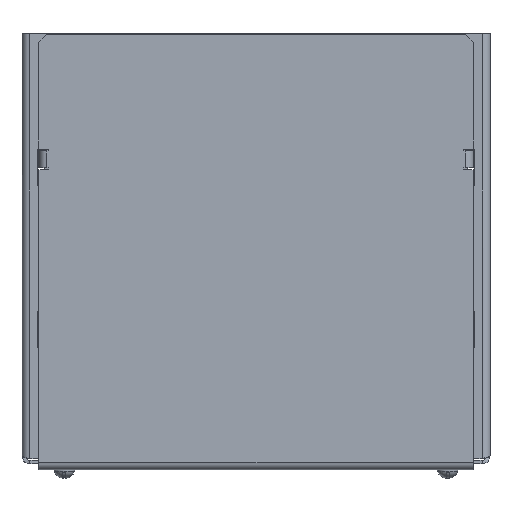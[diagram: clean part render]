
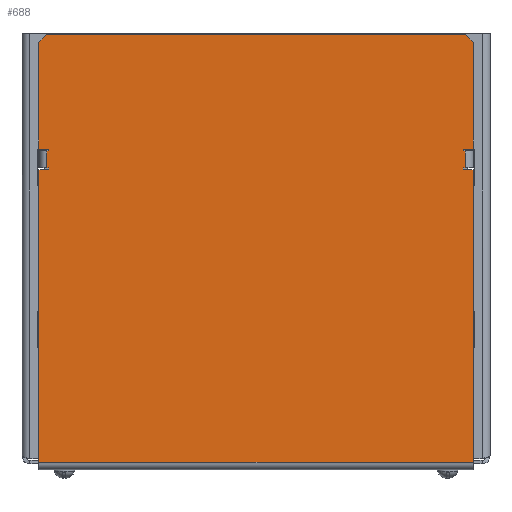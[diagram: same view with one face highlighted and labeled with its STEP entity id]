
A CAD part, left-side view. The second image highlights one B-rep face of the part: STEP entity #688.
In plain terms, the highlighted planar face has unit normal (-1, 0, 0).
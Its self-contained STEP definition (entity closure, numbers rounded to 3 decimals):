
#688=ADVANCED_FACE('',(#4765),#4767,.T.);
#4765=FACE_BOUND('',#4766,.T.);
#4766=EDGE_LOOP('',(#9113,#9114,#9115,#9116,#9117,#9118,#9119,#9120,#9121,#9122,
#9123,#9124,#9125,#9126,#9127,#9128,#9129,#9130,#9131,#9132,#9133,#9134));
#4767=PLANE('',#4768);
#4768=AXIS2_PLACEMENT_3D('',#4769,#4770,#4771);
#4769=CARTESIAN_POINT('',(-116.,0.,-91.5));
#4770=DIRECTION('',(-1.,0.,0.));
#4771=DIRECTION('',(0.,0.,1.));
#9113=ORIENTED_EDGE('',*,*,#11191,.T.);
#9114=ORIENTED_EDGE('',*,*,#11192,.T.);
#9115=ORIENTED_EDGE('',*,*,#11193,.T.);
#9116=ORIENTED_EDGE('',*,*,#11194,.T.);
#9117=ORIENTED_EDGE('',*,*,#11195,.T.);
#9118=ORIENTED_EDGE('',*,*,#11196,.T.);
#9119=ORIENTED_EDGE('',*,*,#11197,.T.);
#9120=ORIENTED_EDGE('',*,*,#11198,.T.);
#9121=ORIENTED_EDGE('',*,*,#11199,.T.);
#9122=ORIENTED_EDGE('',*,*,#11200,.T.);
#9123=ORIENTED_EDGE('',*,*,#11201,.T.);
#9124=ORIENTED_EDGE('',*,*,#11202,.T.);
#9125=ORIENTED_EDGE('',*,*,#11203,.T.);
#9126=ORIENTED_EDGE('',*,*,#11204,.T.);
#9127=ORIENTED_EDGE('',*,*,#11205,.T.);
#9128=ORIENTED_EDGE('',*,*,#11206,.T.);
#9129=ORIENTED_EDGE('',*,*,#11207,.T.);
#9130=ORIENTED_EDGE('',*,*,#11208,.T.);
#9131=ORIENTED_EDGE('',*,*,#11209,.T.);
#9132=ORIENTED_EDGE('',*,*,#11210,.T.);
#9133=ORIENTED_EDGE('',*,*,#11211,.T.);
#9134=ORIENTED_EDGE('',*,*,#11212,.T.);
#11191=EDGE_CURVE('',#13675,#13676,#13677,.T.);
#11192=EDGE_CURVE('',#13676,#13678,#13679,.T.);
#11193=EDGE_CURVE('',#13678,#13680,#13681,.T.);
#11194=EDGE_CURVE('',#13680,#13682,#13683,.T.);
#11195=EDGE_CURVE('',#13682,#13684,#13685,.T.);
#11196=EDGE_CURVE('',#13684,#13686,#13687,.T.);
#11197=EDGE_CURVE('',#13686,#13688,#13689,.T.);
#11198=EDGE_CURVE('',#13688,#13690,#13691,.T.);
#11199=EDGE_CURVE('',#13690,#13692,#13693,.T.);
#11200=EDGE_CURVE('',#13692,#13694,#13695,.T.);
#11201=EDGE_CURVE('',#13694,#13696,#13697,.T.);
#11202=EDGE_CURVE('',#13696,#13698,#13699,.T.);
#11203=EDGE_CURVE('',#13698,#13700,#13701,.T.);
#11204=EDGE_CURVE('',#13700,#13702,#13703,.T.);
#11205=EDGE_CURVE('',#13702,#13704,#13705,.T.);
#11206=EDGE_CURVE('',#13704,#13706,#13707,.T.);
#11207=EDGE_CURVE('',#13706,#13708,#13709,.T.);
#11208=EDGE_CURVE('',#13708,#13710,#13711,.T.);
#11209=EDGE_CURVE('',#13710,#13712,#13713,.T.);
#11210=EDGE_CURVE('',#13712,#13714,#13715,.T.);
#11211=EDGE_CURVE('',#13714,#13716,#13717,.T.);
#11212=EDGE_CURVE('',#13716,#13675,#13718,.T.);
#13675=VERTEX_POINT('',#20191);
#13676=VERTEX_POINT('',#20192);
#13677=LINE('',#20193,#20194);
#13678=VERTEX_POINT('',#20196);
#13679=LINE('',#20197,#20198);
#13680=VERTEX_POINT('',#20200);
#13681=LINE('',#20201,#20202);
#13682=VERTEX_POINT('',#20204);
#13683=LINE('',#20205,#20206);
#13684=VERTEX_POINT('',#20208);
#13685=LINE('',#20209,#20210);
#13686=VERTEX_POINT('',#20212);
#13687=LINE('',#20213,#20214);
#13688=VERTEX_POINT('',#20216);
#13689=LINE('',#20217,#20218);
#13690=VERTEX_POINT('',#20220);
#13691=LINE('',#20221,#20222);
#13692=VERTEX_POINT('',#20224);
#13693=LINE('',#20225,#20226);
#13694=VERTEX_POINT('',#20228);
#13695=LINE('',#20229,#20230);
#13696=VERTEX_POINT('',#20232);
#13697=LINE('',#20233,#20234);
#13698=VERTEX_POINT('',#20236);
#13699=LINE('',#20237,#20238);
#13700=VERTEX_POINT('',#20240);
#13701=LINE('',#20241,#20242);
#13702=VERTEX_POINT('',#20244);
#13703=LINE('',#20245,#20246);
#13704=VERTEX_POINT('',#20248);
#13705=LINE('',#20249,#20250);
#13706=VERTEX_POINT('',#20252);
#13707=LINE('',#20253,#20254);
#13708=VERTEX_POINT('',#20256);
#13709=LINE('',#20257,#20258);
#13710=VERTEX_POINT('',#20260);
#13711=LINE('',#20261,#20262);
#13712=VERTEX_POINT('',#20264);
#13713=LINE('',#20265,#20266);
#13714=VERTEX_POINT('',#20268);
#13715=LINE('',#20269,#20270);
#13716=VERTEX_POINT('',#20272);
#13717=LINE('',#20273,#20274);
#13718=LINE('',#20276,#20277);
#20191=CARTESIAN_POINT('',(-116.,-86.8,88.5));
#20192=CARTESIAN_POINT('',(-116.,86.8,88.5));
#20193=CARTESIAN_POINT('',(-116.,-86.8,88.5));
#20194=VECTOR('',#20195,1.);
#20195=DIRECTION('',(0.,1.,0.));
#20196=CARTESIAN_POINT('',(-116.,89.8,85.5));
#20197=CARTESIAN_POINT('',(-116.,86.8,88.5));
#20198=VECTOR('',#20199,1.);
#20199=DIRECTION('',(0.,0.707,-0.707));
#20200=CARTESIAN_POINT('',(-116.,89.8,41.25));
#20201=CARTESIAN_POINT('',(-116.,89.8,85.5));
#20202=VECTOR('',#20203,1.);
#20203=DIRECTION('',(0.,0.,-1.));
#20204=CARTESIAN_POINT('',(-116.,85.75,41.25));
#20205=CARTESIAN_POINT('',(-116.,89.8,41.25));
#20206=VECTOR('',#20207,1.);
#20207=DIRECTION('',(0.,-1.,0.));
#20208=CARTESIAN_POINT('',(-116.,85.75,40.5));
#20209=CARTESIAN_POINT('',(-116.,85.75,41.25));
#20210=VECTOR('',#20211,1.);
#20211=DIRECTION('',(0.,0.,-1.));
#20212=CARTESIAN_POINT('',(-116.,86.5,40.5));
#20213=CARTESIAN_POINT('',(-116.,85.75,40.5));
#20214=VECTOR('',#20215,1.);
#20215=DIRECTION('',(0.,1.,0.));
#20216=CARTESIAN_POINT('',(-116.,86.5,33.5));
#20217=CARTESIAN_POINT('',(-116.,86.5,40.5));
#20218=VECTOR('',#20219,1.);
#20219=DIRECTION('',(0.,0.,-1.));
#20220=CARTESIAN_POINT('',(-116.,85.75,33.5));
#20221=CARTESIAN_POINT('',(-116.,86.5,33.5));
#20222=VECTOR('',#20223,1.);
#20223=DIRECTION('',(0.,-1.,0.));
#20224=CARTESIAN_POINT('',(-116.,85.75,32.75));
#20225=CARTESIAN_POINT('',(-116.,85.75,33.5));
#20226=VECTOR('',#20227,1.);
#20227=DIRECTION('',(0.,0.,-1.));
#20228=CARTESIAN_POINT('',(-116.,89.8,32.75));
#20229=CARTESIAN_POINT('',(-116.,85.75,32.75));
#20230=VECTOR('',#20231,1.);
#20231=DIRECTION('',(0.,1.,0.));
#20232=CARTESIAN_POINT('',(-116.,89.8,-88.2));
#20233=CARTESIAN_POINT('',(-116.,89.8,32.75));
#20234=VECTOR('',#20235,1.);
#20235=DIRECTION('',(0.,0.,-1.));
#20236=CARTESIAN_POINT('',(-116.,-89.8,-88.2));
#20237=CARTESIAN_POINT('',(-116.,89.8,-88.2));
#20238=VECTOR('',#20239,1.);
#20239=DIRECTION('',(0.,-1.,0.));
#20240=CARTESIAN_POINT('',(-116.,-89.8,32.75));
#20241=CARTESIAN_POINT('',(-116.,-89.8,-88.2));
#20242=VECTOR('',#20243,1.);
#20243=DIRECTION('',(0.,0.,1.));
#20244=CARTESIAN_POINT('',(-116.,-85.75,32.75));
#20245=CARTESIAN_POINT('',(-116.,-89.8,32.75));
#20246=VECTOR('',#20247,1.);
#20247=DIRECTION('',(0.,1.,0.));
#20248=CARTESIAN_POINT('',(-116.,-85.75,33.5));
#20249=CARTESIAN_POINT('',(-116.,-85.75,32.75));
#20250=VECTOR('',#20251,1.);
#20251=DIRECTION('',(0.,0.,1.));
#20252=CARTESIAN_POINT('',(-116.,-86.5,33.5));
#20253=CARTESIAN_POINT('',(-116.,-85.75,33.5));
#20254=VECTOR('',#20255,1.);
#20255=DIRECTION('',(0.,-1.,0.));
#20256=CARTESIAN_POINT('',(-116.,-86.5,40.5));
#20257=CARTESIAN_POINT('',(-116.,-86.5,33.5));
#20258=VECTOR('',#20259,1.);
#20259=DIRECTION('',(0.,0.,1.));
#20260=CARTESIAN_POINT('',(-116.,-85.75,40.5));
#20261=CARTESIAN_POINT('',(-116.,-86.5,40.5));
#20262=VECTOR('',#20263,1.);
#20263=DIRECTION('',(0.,1.,0.));
#20264=CARTESIAN_POINT('',(-116.,-85.75,41.25));
#20265=CARTESIAN_POINT('',(-116.,-85.75,40.5));
#20266=VECTOR('',#20267,1.);
#20267=DIRECTION('',(0.,0.,1.));
#20268=CARTESIAN_POINT('',(-116.,-89.8,41.25));
#20269=CARTESIAN_POINT('',(-116.,-85.75,41.25));
#20270=VECTOR('',#20271,1.);
#20271=DIRECTION('',(0.,-1.,0.));
#20272=CARTESIAN_POINT('',(-116.,-89.8,85.5));
#20273=CARTESIAN_POINT('',(-116.,-89.8,41.25));
#20274=VECTOR('',#20275,1.);
#20275=DIRECTION('',(0.,0.,1.));
#20276=CARTESIAN_POINT('',(-116.,-89.8,85.5));
#20277=VECTOR('',#20278,1.);
#20278=DIRECTION('',(0.,0.707,0.707));
